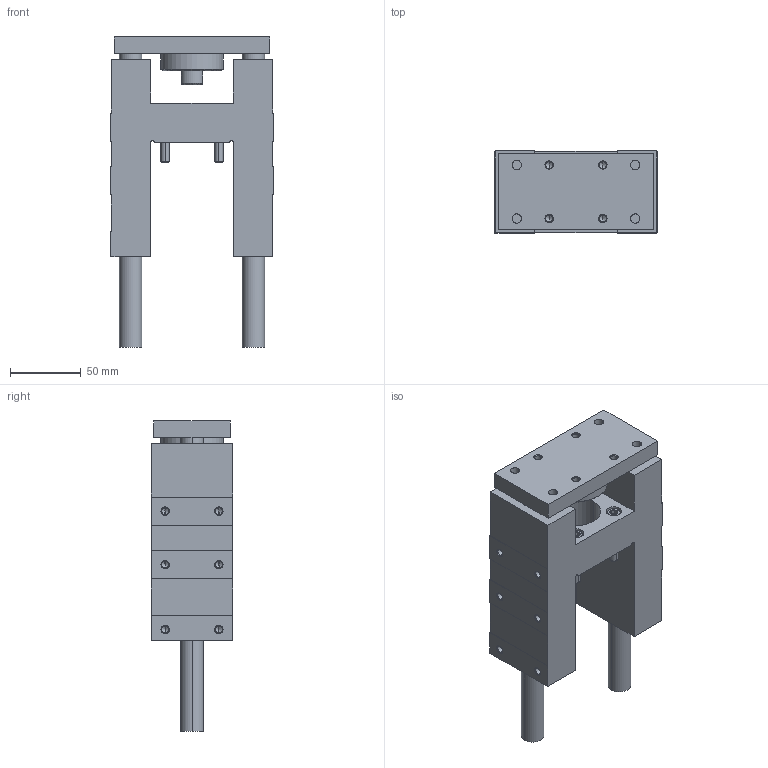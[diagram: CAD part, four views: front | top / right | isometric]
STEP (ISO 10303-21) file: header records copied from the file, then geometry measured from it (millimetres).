
FILE_DESCRIPTION (( 'STEP AP203' ), '1' );
FILE_NAME ('GB40-50.STEP', '2020-04-24T11:16:29', ( '' ), ( '' ), 'SwSTEP 2.0', 'SolidWorks 2019', '' );
FILE_SCHEMA (( 'CONFIG_CONTROL_DESIGN' ));
Length unit declared in the file: millimetre
Products named in the file (1): GB40-50
Bounding box: 115 x 58 x 220 mm (x, y, z)
Volume: 631716.2 mm3; surface area: 127499.5 mm2
Topology: 6 solids, 6 shells, 357 faces, 802 edges, 456 vertices
Faces by surface type: cone 142, plane 113, cylinder 102
Entity records: 10283 total; most frequent: CARTESIAN_POINT 2222, DIRECTION 1796, ORIENTED_EDGE 1532, EDGE_CURVE 766, AXIS2_PLACEMENT_3D 700, VERTEX_POINT 456, EDGE_LOOP 422, VECTOR 396
